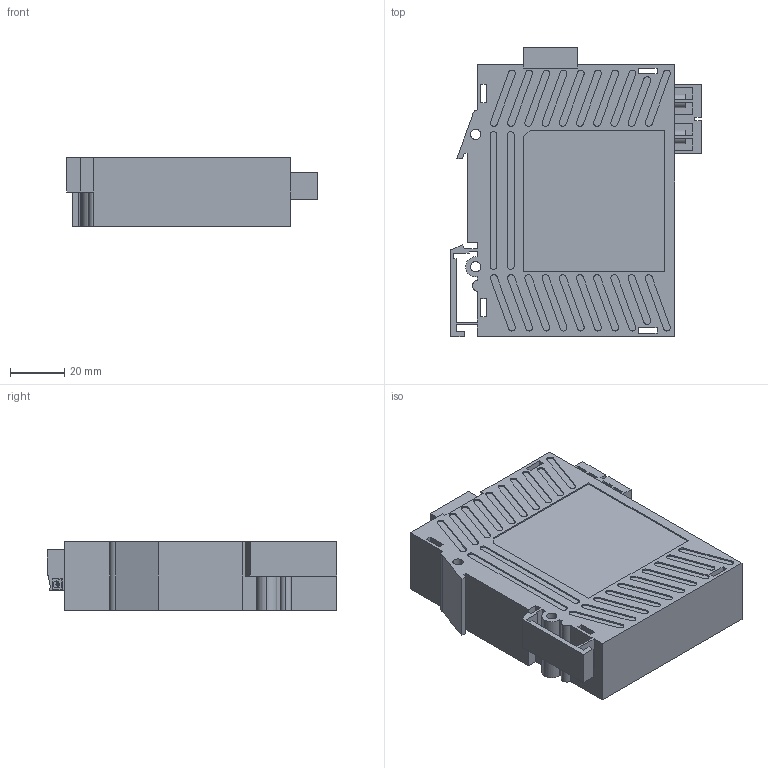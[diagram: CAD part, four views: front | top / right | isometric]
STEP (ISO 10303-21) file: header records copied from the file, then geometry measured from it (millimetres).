
FILE_DESCRIPTION (( 'STEP AP203' ), '1' );
FILE_NAME ('SE20-84XT-RJ422-FO.step', '2012-09-19T13:54:27', ( 'Turck User' ), ( '' ), 'SwSTEP 2.0', 'SolidWorks 2012', '' );
FILE_SCHEMA (( 'CONFIG_CONTROL_DESIGN' ));
Length unit declared in the file: millimetre
Products named in the file (1): SE20-84XT-RJ422-FO
Bounding box: 92.6 x 106.7 x 25.4 mm (x, y, z)
Volume: 163501 mm3; surface area: 44995.1 mm2
Topology: 1 solids, 1 shells, 2328 faces, 6500 edges, 4320 vertices
Faces by surface type: plane 2075, cylinder 195, bspline 50, torus 8
Entity records: 76087 total; most frequent: CARTESIAN_POINT 15855, ORIENTED_EDGE 13000, DIRECTION 11372, EDGE_CURVE 6500, LINE 5970, VECTOR 5970, VERTEX_POINT 4320, AXIS2_PLACEMENT_3D 2701
